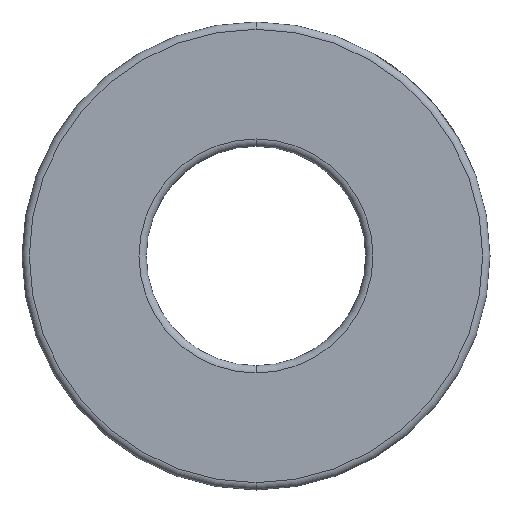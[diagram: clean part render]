
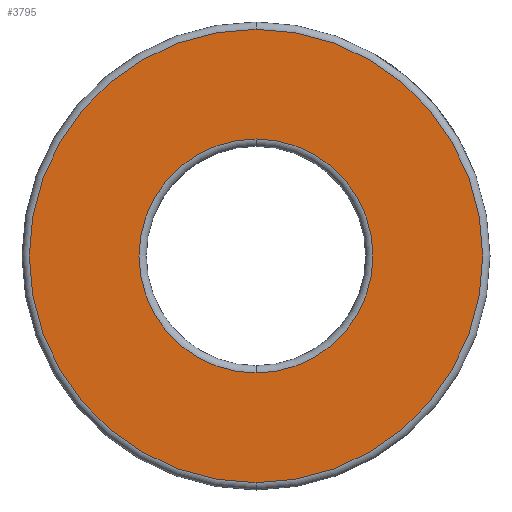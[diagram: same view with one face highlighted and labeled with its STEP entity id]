
A CAD part, front view. The second image highlights one B-rep face of the part: STEP entity #3795.
In plain terms, the highlighted planar face has unit normal (0, -1, 0).
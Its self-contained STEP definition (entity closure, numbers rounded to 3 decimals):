
#392 = DIRECTION ( 'NONE',  ( 0., 0., 1. ) ) ;
#458 = CARTESIAN_POINT ( 'NONE',  ( 0., 0., 0. ) ) ;
#987 = DIRECTION ( 'NONE',  ( 0., 0., 1. ) ) ;
#1485 = CARTESIAN_POINT ( 'NONE',  ( 0., 0., 0. ) ) ;
#1686 = CIRCLE ( 'NONE', #6322, 15.5 ) ;
#1903 = EDGE_LOOP ( 'NONE', ( #6191, #6345 ) ) ;
#1908 = DIRECTION ( 'NONE',  ( 0., -1., 0. ) ) ;
#2016 = DIRECTION ( 'NONE',  ( 0., 0., 1. ) ) ;
#2355 = EDGE_LOOP ( 'NONE', ( #3816, #5326 ) ) ;
#2522 = FACE_OUTER_BOUND ( 'NONE', #2355, .T. ) ;
#2937 = AXIS2_PLACEMENT_3D ( 'NONE', #5119, #3092, #6619 ) ;
#2945 = CARTESIAN_POINT ( 'NONE',  ( 0., 0., 8. ) ) ;
#3018 = CARTESIAN_POINT ( 'NONE',  ( 0., 0., 15.5 ) ) ;
#3092 = DIRECTION ( 'NONE',  ( 0., 1., 0. ) ) ;
#3496 = DIRECTION ( 'NONE',  ( 0., 1., 0. ) ) ;
#3550 = VERTEX_POINT ( 'NONE', #4390 ) ;
#3791 = AXIS2_PLACEMENT_3D ( 'NONE', #1485, #5078, #2016 ) ;
#3795 = ADVANCED_FACE ( 'NONE', ( #6543, #2522 ), #6125, .F. ) ;
#3816 = ORIENTED_EDGE ( 'NONE', *, *, #6475, .T. ) ;
#4064 = DIRECTION ( 'NONE',  ( 0., -1., 0. ) ) ;
#4127 = AXIS2_PLACEMENT_3D ( 'NONE', #458, #4064, #987 ) ;
#4289 = EDGE_CURVE ( 'NONE', #3550, #4838, #1686, .T. ) ;
#4390 = CARTESIAN_POINT ( 'NONE',  ( 0., 0., -15.5 ) ) ;
#4591 = VERTEX_POINT ( 'NONE', #6326 ) ;
#4714 = EDGE_CURVE ( 'NONE', #6179, #4591, #4811, .T. ) ;
#4811 = CIRCLE ( 'NONE', #4851, 8. ) ;
#4838 = VERTEX_POINT ( 'NONE', #3018 ) ;
#4851 = AXIS2_PLACEMENT_3D ( 'NONE', #6512, #3496, #392 ) ;
#4969 = CARTESIAN_POINT ( 'NONE',  ( 0., 0., 0. ) ) ;
#5078 = DIRECTION ( 'NONE',  ( 0., 1., 0. ) ) ;
#5119 = CARTESIAN_POINT ( 'NONE',  ( 0., 0., 0. ) ) ;
#5326 = ORIENTED_EDGE ( 'NONE', *, *, #4289, .T. ) ;
#5475 = DIRECTION ( 'NONE',  ( 0., 0., 1. ) ) ;
#5914 = CIRCLE ( 'NONE', #4127, 15.5 ) ;
#5984 = CIRCLE ( 'NONE', #3791, 8. ) ;
#6125 = PLANE ( 'NONE',  #2937 ) ;
#6179 = VERTEX_POINT ( 'NONE', #2945 ) ;
#6191 = ORIENTED_EDGE ( 'NONE', *, *, #4714, .T. ) ;
#6322 = AXIS2_PLACEMENT_3D ( 'NONE', #4969, #1908, #5475 ) ;
#6326 = CARTESIAN_POINT ( 'NONE',  ( 0., 0., -8. ) ) ;
#6345 = ORIENTED_EDGE ( 'NONE', *, *, #6439, .T. ) ;
#6439 = EDGE_CURVE ( 'NONE', #4591, #6179, #5984, .T. ) ;
#6475 = EDGE_CURVE ( 'NONE', #4838, #3550, #5914, .T. ) ;
#6512 = CARTESIAN_POINT ( 'NONE',  ( 0., 0., 0. ) ) ;
#6543 = FACE_BOUND ( 'NONE', #1903, .T. ) ;
#6619 = DIRECTION ( 'NONE',  ( 0., 0., 1. ) ) ;
